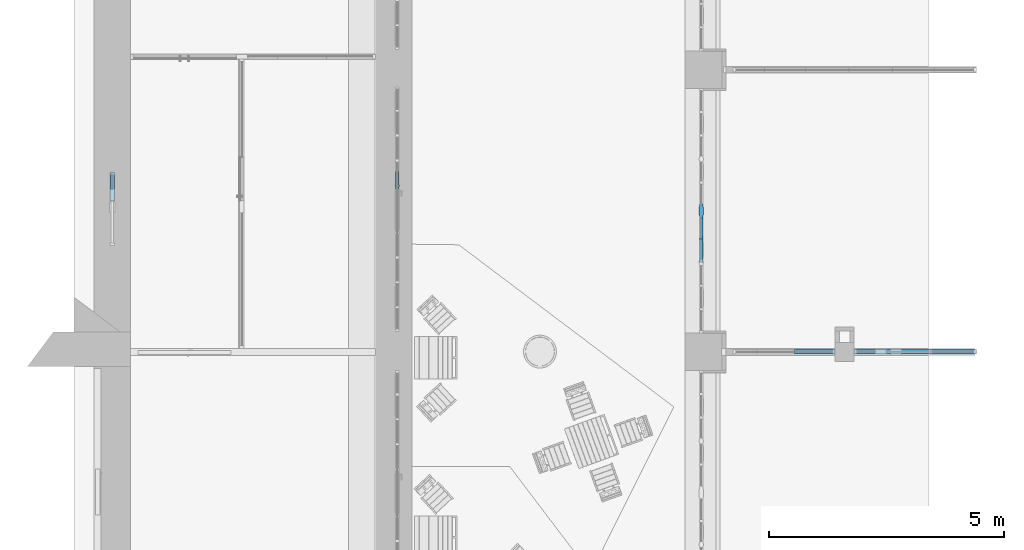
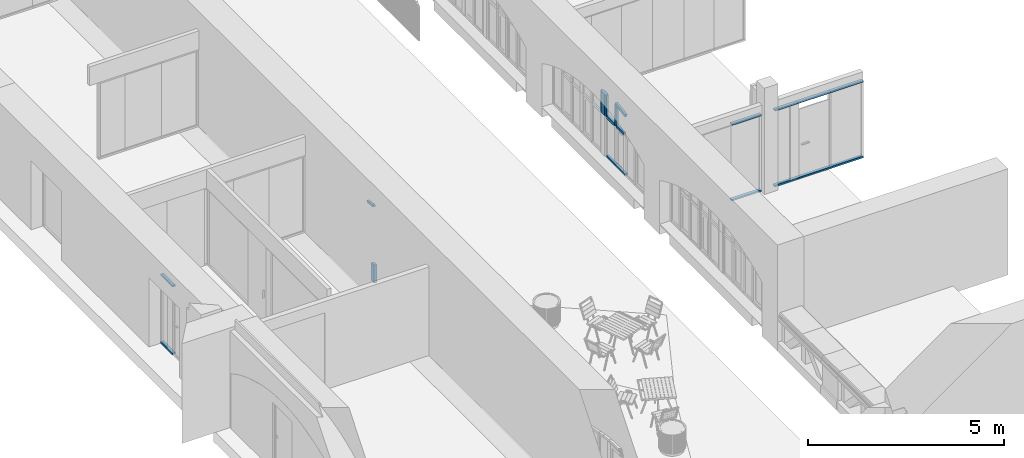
# One storey, part 25 of 88: 19 members, 5 elements without a shape of their own.
"""IFC2X3 building model written with IfcOpenShell, lengths in millimetres."""

from ifc_helpers import new_model, entity, si_unit, converted_unit, derived_unit, direction, frame, frame_2d, origin, place, context, subcontext, project, spatial, polyline, circle_curve, parameter, trimmed, segment, composite_curve, rectangle, outline, extrude, faceted_brep, source, transform, mapped, material, type_object, type_shapes, element, aggregate, save


model = new_model("IFC2X3")

# Units and contexts
model_context = context("Model", 3, precision=0.01, world=origin(), true_north=direction((6.123031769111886e-17, 1.0)))
body_context = subcontext(model_context, "Body", "Model", "MODEL_VIEW")
ifc_project = project(units=[si_unit("LENGTHUNIT", "METRE", prefix="MILLI"), si_unit("AREAUNIT", "SQUARE_METRE"), si_unit("VOLUMEUNIT", "CUBIC_METRE"), converted_unit("PLANEANGLEUNIT", "DEGREE", entity("IfcPlaneAngleMeasure", 0.017453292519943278), si_unit("PLANEANGLEUNIT", "RADIAN"), dimensions=[0, 0, 0, 0, 0, 0, 0]), si_unit("MASSUNIT", "GRAM", prefix="KILO"), derived_unit("MASSDENSITYUNIT", [(si_unit("MASSUNIT", "GRAM", prefix="KILO"), 1), (si_unit("LENGTHUNIT", "METRE"), -3)]), derived_unit("IONCONCENTRATIONUNIT", [(si_unit("MASSUNIT", "GRAM", prefix="KILO"), 1), (si_unit("LENGTHUNIT", "METRE"), -3)]), derived_unit("MOMENTOFINERTIAUNIT", [(si_unit("LENGTHUNIT", "METRE"), 4)]), si_unit("TIMEUNIT", "SECOND"), si_unit("FREQUENCYUNIT", "HERTZ"), si_unit("THERMODYNAMICTEMPERATUREUNIT", "DEGREE_CELSIUS"), derived_unit("THERMALTRANSMITTANCEUNIT", [(si_unit("MASSUNIT", "GRAM", prefix="KILO"), 1), (si_unit("THERMODYNAMICTEMPERATUREUNIT", "KELVIN"), -1), (si_unit("TIMEUNIT", "SECOND"), -3)]), derived_unit("THERMALCONDUCTANCEUNIT", [(si_unit("MASSUNIT", "GRAM", prefix="KILO"), 1), (si_unit("THERMODYNAMICTEMPERATUREUNIT", "KELVIN"), -1), (si_unit("TIMEUNIT", "SECOND"), -3), (si_unit("LENGTHUNIT", "METRE"), 1)]), derived_unit("VOLUMETRICFLOWRATEUNIT", [(si_unit("LENGTHUNIT", "METRE", prefix="DECI"), 3), (si_unit("TIMEUNIT", "SECOND"), -1)]), derived_unit("MASSFLOWRATEUNIT", [(si_unit("MASSUNIT", "GRAM", prefix="KILO"), 1), (si_unit("TIMEUNIT", "SECOND"), -1)]), derived_unit("ROTATIONALFREQUENCYUNIT", [(si_unit("TIMEUNIT", "SECOND"), -1)]), si_unit("ELECTRICCURRENTUNIT", "AMPERE"), si_unit("ELECTRICVOLTAGEUNIT", "VOLT"), si_unit("POWERUNIT", "WATT"), si_unit("FORCEUNIT", "NEWTON", prefix="KILO"), si_unit("ILLUMINANCEUNIT", "LUX"), si_unit("LUMINOUSFLUXUNIT", "LUMEN"), si_unit("LUMINOUSINTENSITYUNIT", "CANDELA"), si_unit("ENERGYUNIT", "JOULE"), derived_unit("USERDEFINED", [(si_unit("MASSUNIT", "GRAM", prefix="KILO"), -1), (si_unit("LENGTHUNIT", "METRE"), -2), (si_unit("TIMEUNIT", "SECOND"), 3), (si_unit("LUMINOUSFLUXUNIT", "LUMEN"), 1)]), derived_unit("USERDEFINED", [(si_unit("MASSUNIT", "GRAM", prefix="KILO"), 1), (si_unit("TIMEUNIT", "SECOND"), -3), (si_unit("LENGTHUNIT", "METRE"), 3), (si_unit("ELECTRICCURRENTUNIT", "AMPERE"), -2)]), derived_unit("SOUNDPOWERUNIT", [(si_unit("MASSUNIT", "GRAM", prefix="KILO"), 1), (si_unit("TIMEUNIT", "SECOND"), -3), (si_unit("LENGTHUNIT", "METRE"), 2)]), derived_unit("SOUNDPRESSUREUNIT", [(si_unit("MASSUNIT", "GRAM", prefix="KILO"), 1), (si_unit("LENGTHUNIT", "METRE"), -1), (si_unit("TIMEUNIT", "SECOND"), -2)]), derived_unit("LINEARVELOCITYUNIT", [(si_unit("LENGTHUNIT", "METRE"), 1), (si_unit("TIMEUNIT", "SECOND"), -1)]), si_unit("PRESSUREUNIT", "PASCAL"), derived_unit("USERDEFINED", [(si_unit("MASSUNIT", "GRAM", prefix="KILO"), 1), (si_unit("LENGTHUNIT", "METRE"), -2), (si_unit("TIMEUNIT", "SECOND"), -2)]), derived_unit("LINEARFORCEUNIT", [(si_unit("MASSUNIT", "GRAM", prefix="KILO"), 1), (si_unit("TIMEUNIT", "SECOND"), -2)]), derived_unit("PLANARFORCEUNIT", [(si_unit("MASSUNIT", "GRAM", prefix="KILO"), 1), (si_unit("LENGTHUNIT", "METRE"), -1), (si_unit("TIMEUNIT", "SECOND"), -2)]), derived_unit("SPECIFICHEATCAPACITYUNIT", [(si_unit("THERMODYNAMICTEMPERATUREUNIT", "KELVIN"), -1), (si_unit("LENGTHUNIT", "METRE"), 2), (si_unit("TIMEUNIT", "SECOND"), -2)]), derived_unit("HEATFLUXDENSITYUNIT", [(si_unit("MASSUNIT", "GRAM", prefix="KILO"), 1), (si_unit("TIMEUNIT", "SECOND"), -3)]), derived_unit("HEATINGVALUEUNIT", [(si_unit("LENGTHUNIT", "METRE"), 2), (si_unit("TIMEUNIT", "SECOND"), -2)]), derived_unit("VAPORPERMEABILITYUNIT", [(si_unit("LENGTHUNIT", "METRE"), -1), (si_unit("TIMEUNIT", "SECOND"), 1)]), derived_unit("DYNAMICVISCOSITYUNIT", [(si_unit("MASSUNIT", "GRAM", prefix="KILO"), 1), (si_unit("TIMEUNIT", "SECOND"), -1), (si_unit("LENGTHUNIT", "METRE"), -1)]), derived_unit("THERMALEXPANSIONCOEFFICIENTUNIT", [(si_unit("THERMODYNAMICTEMPERATUREUNIT", "KELVIN"), -1)]), derived_unit("MODULUSOFELASTICITYUNIT", [(si_unit("MASSUNIT", "GRAM", prefix="KILO"), 1), (si_unit("LENGTHUNIT", "METRE"), -1), (si_unit("TIMEUNIT", "SECOND"), -2)]), derived_unit("ISOTHERMALMOISTURECAPACITYUNIT", [(si_unit("MASSUNIT", "GRAM", prefix="KILO"), -1), (si_unit("LENGTHUNIT", "METRE"), 3)]), derived_unit("MOISTUREDIFFUSIVITYUNIT", [(si_unit("TIMEUNIT", "SECOND"), -1), (si_unit("LENGTHUNIT", "METRE"), 2)]), derived_unit("MASSPERLENGTHUNIT", [(si_unit("MASSUNIT", "GRAM", prefix="KILO"), 1), (si_unit("LENGTHUNIT", "METRE"), -1)]), derived_unit("THERMALRESISTANCEUNIT", [(si_unit("MASSUNIT", "GRAM", prefix="KILO"), -1), (si_unit("TIMEUNIT", "SECOND"), 3), (si_unit("THERMODYNAMICTEMPERATUREUNIT", "KELVIN"), 1)]), derived_unit("ACCELERATIONUNIT", [(si_unit("LENGTHUNIT", "METRE"), 1), (si_unit("TIMEUNIT", "SECOND"), -2)]), derived_unit("ANGULARVELOCITYUNIT", [(si_unit("TIMEUNIT", "SECOND"), -1), (si_unit("PLANEANGLEUNIT", "RADIAN"), 1)]), derived_unit("LINEARSTIFFNESSUNIT", [(si_unit("MASSUNIT", "GRAM", prefix="KILO"), 1), (si_unit("TIMEUNIT", "SECOND"), -2)]), derived_unit("WARPINGCONSTANTUNIT", [(si_unit("LENGTHUNIT", "METRE"), 6)]), derived_unit("LINEARMOMENTUNIT", [(si_unit("MASSUNIT", "GRAM", prefix="KILO"), 1), (si_unit("LENGTHUNIT", "METRE"), 1), (si_unit("TIMEUNIT", "SECOND"), -2)]), derived_unit("TORQUEUNIT", [(si_unit("MASSUNIT", "GRAM", prefix="KILO"), 1), (si_unit("LENGTHUNIT", "METRE"), 2), (si_unit("TIMEUNIT", "SECOND"), -2)])], contexts=[model_context])

# Site, building, storey
site_placement = place(None, origin())
site = spatial("IfcSite", under=ifc_project, at=site_placement, Name="Default", CompositionType="ELEMENT")
building_placement = place(site_placement, origin())
building = spatial("IfcBuilding", under=site, at=building_placement, Name="Eesti Rahvusraamatukogu hoone renoveerimise projekteerimistööd", CompositionType="ELEMENT")
storey_placement = place(building_placement, origin())
storey = spatial("IfcBuildingStorey", under=building, at=storey_placement, Name="1. korrus", CompositionType="ELEMENT", Elevation=0.0)

# Curtain wall, members
curtain_wall_type_1 = type_object("IfcCurtainWallType", Name="Curtain Wall:Ak-02", PredefinedType="NOTDEFINED")
curtain_wall_1_placement = place(storey_placement, origin())
curtain_wall_1 = element("IfcCurtainWall", 1, at=curtain_wall_1_placement, inside=storey, type_object=curtain_wall_type_1, Name="Curtain Wall:Ak-02", ObjectType="Curtain Wall:Ak-02")
ifc_material_1 = material(Name="LUMION_dark steel window frames")
member_type_1 = type_object("IfcMemberType", Name="Rectangular Mullion:NEW 80x70mm", PredefinedType="MULLION", material=ifc_material_1)
shared_shape_1 = source(origin(), body_context, "Body", "SweptSolid", [
    extrude(outline(composite_curve([segment(polyline([(-51.51245202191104, -250.9261639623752), (28.487547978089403, -250.92616396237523)]), True, "CONTINUOUS"), segment(trimmed(circle_curve(frame_2d((5469.203228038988, -250.9261639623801), x_axis=(-0.9957989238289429, 0.09156693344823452)), 5440.715680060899), [parameter(3.5622212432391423e-13)], [parameter(5.253758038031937)], True, "PARAMETER"), False, "CONTINUOUS"), segment(polyline([(51.34440897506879, 247.26348662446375), (-28.319504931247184, 254.5888413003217)]), True, "CONTINUOUS"), segment(trimmed(circle_curve(frame_2d((5469.203228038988, -250.9261639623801), x_axis=(-0.9957989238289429, 0.09156693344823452)), 5520.715680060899), [parameter(3.5622212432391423e-13)], [parameter(5.253758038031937)], True, "PARAMETER"), True, "CONTINUOUS")], self_intersect=False)), frame((-51.512452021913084, -35.0, -250.926163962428), z_axis=(0.0, 1.0, 0.0), x_axis=(-0.9957989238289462, 0.0, 0.09156693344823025)), (0.0, 0.0, 1.0), 70.00000000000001),
])
type_shapes(member_type_1, [shared_shape_1])
member_1_placement = place(curtain_wall_1_placement, frame((-36440.0, 14290.0, 3859.874732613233), z_axis=(0.0, -0.9799487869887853, -0.19924952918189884), x_axis=(0.0, -0.19924952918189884, 0.9799487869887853)))
member_1 = element("IfcMember", 2, at=member_1_placement, type_object=member_type_1, material=ifc_material_1, Name="Rectangular Mullion:NEW 80x70mm", ObjectType="Rectangular Mullion:NEW 80x70mm", context=body_context, shape_type="MappedRepresentation", body=[
    mapped(shared_shape_1, transform((0.0, 0.0, 0.0), scale=1.0)),
])
member_type_2 = type_object("IfcMemberType", Name="Rectangular Mullion:NEW 300x100mm", PredefinedType="MULLION", material=ifc_material_1)
shared_shape_2 = source(origin(), body_context, "Body", "Brep", [
    faceted_brep([(-85.0, -50.0, 0.0), (85.0, -50.0, 0.0), (85.0, -35.0, 0.0), (150.0, -35.0, 0.0), (150.0, 35.0, 0.0), (85.0, 35.0, 0.0), (85.0, 50.0, 0.0), (-85.0, 50.0, 0.0), (-85.0, 35.0, 0.0), (-150.0, 35.0, 0.0), (-150.0, -35.0, 0.0), (-85.0, -35.0, 0.0), (-85.0, 35.0, -669.9077630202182), (-117.50209737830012, 35.0, -669.3027955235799), (-150.0, 35.0, -668.5036429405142), (150.0, 35.0, -668.5036429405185), (117.50209737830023, 35.0, -669.3027955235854), (85.0, 35.0, -669.9077630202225), (-150.0, -35.0, -668.5036429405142), (-117.5020973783, -35.0, -669.3027955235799), (-85.0, -35.0, -669.9077630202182), (85.0, -35.0, -669.9077630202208), (117.50209737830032, -35.0, -669.3027955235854), (150.0, -35.0, -668.5036429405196), (-85.0, -50.0, -669.9077630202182), (-85.0, 50.0, -669.9077630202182), (-42.50064842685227, -50.0, -670.4057773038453), (0.0, -50.0, -670.5717786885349), (42.500648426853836, -50.0, -670.4057773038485), (85.0, -50.0, -669.9077630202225), (85.0, 50.0, -669.9077630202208), (42.500648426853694, 50.0, -670.4057773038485), (0.0, 50.0, -670.5717786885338), (-42.50064842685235, 50.0, -670.4057773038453)], [[[0, 1, 2, 3, 4, 5, 6, 7, 8, 9, 10, 11]], [[9, 8, 12, 13, 14]], [[5, 4, 15, 16, 17]], [[10, 9, 14, 18]], [[11, 10, 18, 19, 20]], [[3, 2, 21, 22, 23]], [[0, 11, 20, 24]], [[8, 7, 25, 12]], [[1, 0, 24, 26, 27, 28, 29]], [[2, 1, 29, 21]], [[6, 5, 17, 30]], [[4, 3, 23, 15]], [[7, 6, 30, 31, 32, 33, 25]], [[33, 32, 27, 26]], [[20, 12, 25, 33, 26, 24]], [[20, 19, 13, 12]], [[19, 18, 14, 13]], [[15, 23, 22, 16]], [[16, 22, 21, 17]], [[21, 29, 28, 31, 30, 17]], [[31, 28, 27, 32]]]),
])
type_shapes(member_type_2, [shared_shape_2])
member_2_placement = place(curtain_wall_1_placement, frame((-36440.0, 15390.0, 3220.0), z_axis=(0.0, 0.0, -1.0), x_axis=(0.0, -1.0, 0.0)))
member_2 = element("IfcMember", 3, at=member_2_placement, type_object=member_type_2, material=ifc_material_1, Name="Rectangular Mullion:NEW 300x100mm", ObjectType="Rectangular Mullion:NEW 300x100mm", context=body_context, shape_type="MappedRepresentation", body=[
    mapped(shared_shape_2, transform((0.0, 0.0, 0.0), scale=1.0)),
])
member_type_3 = type_object("IfcMemberType", Name="Rectangular Mullion:NEW 80x70mm", PredefinedType="MULLION", material=ifc_material_1)
shared_shape_3 = source(origin(), body_context, "Body", "SweptSolid", [
    extrude(outline(composite_curve([segment(polyline([(-382.56363634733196, -41.73890498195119), (250.23491165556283, -41.73890498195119)]), True, "CONTINUOUS"), segment(trimmed(circle_curve(frame_2d((-5152.707537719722, 598.2610950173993), x_axis=(0.9799487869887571, -0.19924952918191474)), 5440.715680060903), [parameter(4.737642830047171)], [parameter(5.253758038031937)], True, "PARAMETER"), True, "CONTINUOUS"), segment(trimmed(circle_curve(frame_2d((-5152.70753772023, 598.2610950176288), x_axis=(0.994076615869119, -0.10868156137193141)), 5440.715680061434), [parameter(0.0)], [parameter(0.33153708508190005)], True, "PARAMETER"), True, "CONTINUOUS"), segment(polyline([(259.11166761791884, 38.26109501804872), (-382.56363634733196, 38.26109501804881)]), True, "CONTINUOUS"), segment(polyline([(-382.56363634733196, 38.26109501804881), (-382.56363634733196, -41.73890498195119)]), True, "CONTINUOUS")], self_intersect=False)), frame((-1.7389049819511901, -35.0, -382.56363634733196), z_axis=(0.0, 1.0, 0.0), x_axis=(0.0, 0.0, -1.0)), (0.0, 0.0, 1.0), 70.00000000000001),
])
type_shapes(member_type_3, [shared_shape_3])
member_3_placement = place(curtain_wall_1_placement, frame((-36440.0, 14790.0, 3220.0), z_axis=(0.0, 0.0, -1.0), x_axis=(0.0, -1.0, 0.0)))
member_3 = element("IfcMember", 4, at=member_3_placement, type_object=member_type_3, material=ifc_material_1, Name="Rectangular Mullion:NEW 80x70mm", ObjectType="Rectangular Mullion:NEW 80x70mm", context=body_context, shape_type="MappedRepresentation", body=[
    mapped(shared_shape_3, transform((0.0, 0.0, 0.0), scale=1.0)),
])
member_type_4 = type_object("IfcMemberType", Name="Rectangular Mullion:NEW 80x70mm", PredefinedType="MULLION", material=ifc_material_1)
shared_shape_4 = source(origin(), body_context, "Body", "SweptSolid", [
    extrude(rectangle(XDim=80.0, YDim=70.0, at=frame_2d((0.0, -3.552713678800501e-15), x_axis=(1.0, 0.0))), frame((0.0, 0.0, -385.0), z_axis=(0.0, 0.0, 1.0), x_axis=(-1.0, 0.0, 0.0)), (0.0, 0.0, 1.0), 384.99999999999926),
])
type_shapes(member_type_4, [shared_shape_4])
member_4_placement = place(curtain_wall_1_placement, frame((-36440.0, 14365.0, 3220.0), z_axis=(0.0, -1.0, 0.0), x_axis=(0.0, 0.0, 1.0)))
member_4 = element("IfcMember", 5, at=member_4_placement, type_object=member_type_4, material=ifc_material_1, Name="Rectangular Mullion:NEW 80x70mm", ObjectType="Rectangular Mullion:NEW 80x70mm", context=body_context, shape_type="MappedRepresentation", body=[
    mapped(shared_shape_4, transform((0.0, 0.0, 0.0), scale=1.0)),
])
member_type_5 = type_object("IfcMemberType", Name="Rectangular Mullion:NEW 80x70mm", PredefinedType="MULLION", material=ifc_material_1)
shared_shape_5 = source(origin(), body_context, "Body", "SweptSolid", [
    extrude(rectangle(XDim=80.0, YDim=70.0, at=frame_2d((0.0, -3.552713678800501e-15), x_axis=(1.0, 0.0))), frame((0.0, 0.0, -410.0), z_axis=(0.0, 0.0, 1.0), x_axis=(-1.0, 0.0, 0.0)), (0.0, 0.0, 1.0), 409.9999999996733),
])
type_shapes(member_type_5, [shared_shape_5])
member_5_placement = place(curtain_wall_1_placement, frame((-36440.0, 14830.0, 3220.0), z_axis=(0.0, -1.0, 0.0), x_axis=(0.0, 0.0, 1.0)))
member_5 = element("IfcMember", 6, at=member_5_placement, type_object=member_type_5, material=ifc_material_1, Name="Rectangular Mullion:NEW 80x70mm", ObjectType="Rectangular Mullion:NEW 80x70mm", context=body_context, shape_type="MappedRepresentation", body=[
    mapped(shared_shape_5, transform((0.0, 0.0, 0.0), scale=1.0)),
])
member_type_6 = type_object("IfcMemberType", Name="Rectangular Mullion:NEW 60x70mm", PredefinedType="MULLION", material=ifc_material_1)
shared_shape_6 = source(origin(), body_context, "Body", "SweptSolid", [
    extrude(rectangle(XDim=60.0, YDim=70.0, at=frame_2d((0.0, 3.552713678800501e-15), x_axis=(1.0, 0.0))), frame((-30.0, 0.0, -500.0), z_axis=(0.0, 0.0, 1.0), x_axis=(-1.0, 0.0, 0.0)), (0.0, 0.0, 1.0), 499.999999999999),
])
type_shapes(member_type_6, [shared_shape_6])
member_6_placement = place(curtain_wall_1_placement, frame((-36440.0, 14790.0, 1970.0), z_axis=(0.0, 1.0, 0.0), x_axis=(0.0, 0.0, -1.0)))
member_6 = element("IfcMember", 7, at=member_6_placement, type_object=member_type_6, material=ifc_material_1, Name="Rectangular Mullion:NEW 60x70mm", ObjectType="Rectangular Mullion:NEW 60x70mm", context=body_context, shape_type="MappedRepresentation", body=[
    mapped(shared_shape_6, transform((0.0, 0.0, 0.0), scale=1.0)),
])
member_type_7 = type_object("IfcMemberType", Name="Rectangular Mullion:NEW 60x70mm", PredefinedType="MULLION", material=ifc_material_1)
shared_shape_7 = source(origin(), body_context, "Body", "SweptSolid", [
    extrude(rectangle(XDim=60.0, YDim=70.0, at=frame_2d((0.0, 3.552713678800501e-15), x_axis=(1.0, 0.0))), frame((-30.0, 0.0, -450.0), z_axis=(0.0, 0.0, 1.0), x_axis=(-1.0, 0.0, 0.0)), (0.0, 0.0, 1.0), 449.9999999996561),
])
type_shapes(member_type_7, [shared_shape_7])
member_7_placement = place(curtain_wall_1_placement, frame((-36440.0, 15240.0, 1970.0), z_axis=(0.0, 1.0, 0.0), x_axis=(0.0, 0.0, -1.0)))
member_7 = element("IfcMember", 8, at=member_7_placement, type_object=member_type_7, material=ifc_material_1, Name="Rectangular Mullion:NEW 60x70mm", ObjectType="Rectangular Mullion:NEW 60x70mm", context=body_context, shape_type="MappedRepresentation", body=[
    mapped(shared_shape_7, transform((0.0, 0.0, 0.0), scale=1.0)),
])
aggregate(curtain_wall_1, [member_1, member_2, member_3, member_4, member_5, member_6, member_7])

curtain_wall_type_2 = type_object("IfcCurtainWallType", Name="Curtain Wall:Ak-05", PredefinedType="NOTDEFINED")
curtain_wall_2_placement = place(storey_placement, origin())
curtain_wall_2 = element("IfcCurtainWall", 9, at=curtain_wall_2_placement, inside=storey, type_object=curtain_wall_type_2, Name="Curtain Wall:Ak-05", ObjectType="Curtain Wall:Ak-05")
member_type_8 = type_object("IfcMemberType", Name="Rectangular Mullion:NEW 60x70mm", PredefinedType="MULLION", material=ifc_material_1)
shared_shape_8 = source(origin(), body_context, "Body", "SweptSolid", [
    extrude(outline(composite_curve([segment(polyline([(-34.44225079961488, -156.14991642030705), (25.5577492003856, -156.14991642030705)]), True, "CONTINUOUS"), segment(trimmed(circle_curve(frame_2d((5488.8383159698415, -156.14991642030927), x_axis=(-0.9983826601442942, 0.05685124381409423)), 5463.280566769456), [parameter(3.5622212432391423e-13)], [parameter(3.2590935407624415)], True, "PARAMETER"), False, "CONTINUOUS"), segment(polyline([(34.393730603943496, 154.44437910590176), (-25.509229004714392, 157.8554537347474)]), True, "CONTINUOUS"), segment(trimmed(circle_curve(frame_2d((5488.8383159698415, -156.14991642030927), x_axis=(-0.9983826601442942, 0.05685124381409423)), 5523.280566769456), [parameter(3.5622212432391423e-13)], [parameter(3.2590935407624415)], True, "PARAMETER"), True, "CONTINUOUS")], self_intersect=False)), frame((-34.44225079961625, -35.0, -156.14991642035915), z_axis=(0.0, 1.0, 0.0), x_axis=(-0.9983826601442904, 0.0, 0.056851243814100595)), (0.0, 0.0, 1.0), 69.99999999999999),
])
type_shapes(member_type_8, [shared_shape_8])
member_8_placement = place(curtain_wall_2_placement, frame((-42905.0, 15925.0, 2327.321965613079), z_axis=(0.0, -0.9958941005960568, 0.09052591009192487), x_axis=(0.0, 0.09052591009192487, 0.9958941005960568)))
member_8 = element("IfcMember", 10, at=member_8_placement, type_object=member_type_8, material=ifc_material_1, Name="Rectangular Mullion:NEW 60x70mm", ObjectType="Rectangular Mullion:NEW 60x70mm", context=body_context, shape_type="MappedRepresentation", body=[
    mapped(shared_shape_8, transform((0.0, 0.0, 0.0), scale=1.0)),
])
member_type_9 = type_object("IfcMemberType", Name="Rectangular Mullion:NEW 150x90mm", PredefinedType="MULLION", material=ifc_material_1)
shared_shape_9 = source(origin(), body_context, "Body", "SweptSolid", [
    extrude(outline(polyline([(40.0, -20.0), (45.0, -20.0), (45.0, 20.0), (40.0, 20.0), (40.0, 75.0), (-40.0, 75.0), (-40.0, 20.0), (-45.0, 20.0), (-45.0, -20.0), (-40.0, -20.0), (-40.0, -75.0), (40.0, -75.0), (40.0, -20.0)])), frame((0.0, 0.0, -550.0), z_axis=(0.0, 0.0, 1.0), x_axis=(0.0, -1.0, 0.0)), (0.0, 0.0, 1.0), 550.0000000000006),
])
type_shapes(member_type_9, [shared_shape_9])
member_9_placement = place(curtain_wall_2_placement, frame((-42905.0, 15925.0, -50.0), z_axis=(0.0, 0.0, -1.0), x_axis=(0.0, -1.0, 0.0)))
member_9 = element("IfcMember", 11, at=member_9_placement, type_object=member_type_9, material=ifc_material_1, Name="Rectangular Mullion:NEW 150x90mm", ObjectType="Rectangular Mullion:NEW 150x90mm", context=body_context, shape_type="MappedRepresentation", body=[
    mapped(shared_shape_9, transform((0.0, 0.0, 0.0), scale=1.0)),
])
aggregate(curtain_wall_2, [member_8, member_9])

curtain_wall_type_3 = type_object("IfcCurtainWallType", Name="Curtain Wall:VLS Klaasvahesein profiilita 38db", PredefinedType="NOTDEFINED")
curtain_wall_3_placement = place(storey_placement, origin())
curtain_wall_3 = element("IfcCurtainWall", 12, at=curtain_wall_3_placement, inside=storey, type_object=curtain_wall_type_3, Name="Curtain Wall:VLS Klaasvahesein profiilita 38db", ObjectType="Curtain Wall:VLS Klaasvahesein profiilita 38db")
ifc_material_2 = material(Name="Aluminum")
member_type_10 = type_object("IfcMemberType", Name="Rectangular Mullion:50mm x 92mm", PredefinedType="MULLION", material=ifc_material_2)
shared_shape_10 = source(origin(), body_context, "Body", "SweptSolid", [
    extrude(rectangle(XDim=50.0, YDim=92.0, at=frame_2d((0.0, 3.552713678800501e-15), x_axis=(1.0, 0.0))), frame((-25.0, 0.0, -600.0), z_axis=(0.0, 0.0, 1.0), x_axis=(-1.0, 0.0, 0.0)), (0.0, 0.0, 1.0), 600.0000000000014),
])
type_shapes(member_type_10, [shared_shape_10])
member_10_placement = place(curtain_wall_3_placement, frame((-48970.0, 16205.0, 0.0), z_axis=(0.0, 1.0, 0.0), x_axis=(0.0, 0.0, -1.0)))
member_10 = element("IfcMember", 13, at=member_10_placement, type_object=member_type_10, material=ifc_material_2, Name="Rectangular Mullion:50mm x 92mm", ObjectType="Rectangular Mullion:50mm x 92mm", context=body_context, shape_type="MappedRepresentation", body=[
    mapped(shared_shape_10, transform((0.0, 0.0, 0.0), scale=1.0)),
])
member_type_11 = type_object("IfcMemberType", Name="Rectangular Mullion:50mm x 92mm", PredefinedType="MULLION", material=ifc_material_2)
shared_shape_11 = source(origin(), body_context, "Body", "SweptSolid", [
    extrude(rectangle(XDim=50.0, YDim=92.0, at=frame_2d((0.0, 3.552713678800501e-15), x_axis=(1.0, 0.0))), frame((-25.0, 0.0, -600.0), z_axis=(0.0, 0.0, 1.0), x_axis=(-1.0, 0.0, 0.0)), (0.0, 0.0, 1.0), 600.0000000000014),
])
type_shapes(member_type_11, [shared_shape_11])
member_11_placement = place(curtain_wall_3_placement, frame((-48970.0, 15605.0, 2150.0), z_axis=(0.0, -1.0, 0.0), x_axis=(0.0, 0.0, 1.0)))
member_11 = element("IfcMember", 14, at=member_11_placement, type_object=member_type_11, material=ifc_material_2, Name="Rectangular Mullion:50mm x 92mm", ObjectType="Rectangular Mullion:50mm x 92mm", context=body_context, shape_type="MappedRepresentation", body=[
    mapped(shared_shape_11, transform((0.0, 0.0, 0.0), scale=1.0)),
])
aggregate(curtain_wall_3, [member_10, member_11])

curtain_wall_4_placement = place(storey_placement, origin())
curtain_wall_4 = element("IfcCurtainWall", 15, at=curtain_wall_4_placement, inside=storey, type_object=curtain_wall_type_3, Name="Curtain Wall:VLS Klaasvahesein profiilita 38db", ObjectType="Curtain Wall:VLS Klaasvahesein profiilita 38db")
member_type_12 = type_object("IfcMemberType", Name="Rectangular Mullion:50mm x 92mm", PredefinedType="MULLION", material=ifc_material_2)
shared_shape_12 = source(origin(), body_context, "Body", "SweptSolid", [
    extrude(rectangle(XDim=50.0, YDim=92.0, at=frame_2d((0.0, 3.552713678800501e-15), x_axis=(1.0, 0.0))), frame((-25.0, 0.0, -865.5000000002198), z_axis=(0.0, 0.0, 1.0), x_axis=(-1.0, 0.0, 0.0)), (0.0, 0.0, 1.0), 865.5000000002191),
])
type_shapes(member_type_12, [shared_shape_12])
member_12_placement = place(curtain_wall_4_placement, frame((-33590.0, 12390.0, 1650.0), z_axis=(1.0, 0.0, 0.0), x_axis=(0.0, 0.0, -1.0)))
member_12 = element("IfcMember", 16, at=member_12_placement, type_object=member_type_12, material=ifc_material_2, Name="Rectangular Mullion:50mm x 92mm", ObjectType="Rectangular Mullion:50mm x 92mm", context=body_context, shape_type="MappedRepresentation", body=[
    mapped(shared_shape_12, transform((0.0, 0.0, 0.0), scale=1.0)),
])
member_type_13 = type_object("IfcMemberType", Name="Rectangular Mullion:50mm x 92mm", PredefinedType="MULLION", material=ifc_material_2)
shared_shape_13 = source(origin(), body_context, "Body", "SweptSolid", [
    extrude(rectangle(XDim=50.0, YDim=92.0, at=frame_2d((0.0, 3.552713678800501e-15), x_axis=(1.0, 0.0))), frame((-25.0, 0.0, -865.5000000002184), z_axis=(0.0, 0.0, 1.0), x_axis=(-1.0, 0.0, 0.0)), (0.0, 0.0, 1.0), 865.5000000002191),
])
type_shapes(member_type_13, [shared_shape_13])
member_13_placement = place(curtain_wall_4_placement, frame((-34455.49999999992, 12390.0, 4050.0), z_axis=(-1.0, 0.0, 0.0), x_axis=(0.0, 0.0, 1.0)))
member_13 = element("IfcMember", 17, at=member_13_placement, type_object=member_type_13, material=ifc_material_2, Name="Rectangular Mullion:50mm x 92mm", ObjectType="Rectangular Mullion:50mm x 92mm", context=body_context, shape_type="MappedRepresentation", body=[
    mapped(shared_shape_13, transform((0.0, 0.0, 0.0), scale=1.0)),
])
aggregate(curtain_wall_4, [member_12, member_13])

curtain_wall_5_placement = place(storey_placement, origin())
curtain_wall_5 = element("IfcCurtainWall", 18, at=curtain_wall_5_placement, inside=storey, type_object=curtain_wall_type_3, Name="Curtain Wall:VLS Klaasvahesein profiilita 38db", ObjectType="Curtain Wall:VLS Klaasvahesein profiilita 38db")
member_type_14 = type_object("IfcMemberType", Name="Rectangular Mullion:50mm x 92mm", PredefinedType="MULLION", material=ifc_material_2)
shared_shape_14 = source(origin(), body_context, "Body", "SweptSolid", [
    extrude(rectangle(XDim=50.0, YDim=92.0, at=frame_2d((0.0, 3.552713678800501e-15), x_axis=(1.0, 0.0))), frame((-25.0, 0.0, -975.0), z_axis=(0.0, 0.0, 1.0), x_axis=(-1.0, 0.0, 0.0)), (0.0, 0.0, 1.0), 974.9999999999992),
])
type_shapes(member_type_14, [shared_shape_14])
member_14_placement = place(curtain_wall_5_placement, frame((-30590.0, 12390.0, 4050.0), z_axis=(1.0, 0.0, 0.0), x_axis=(0.0, 0.0, 1.0)))
member_14 = element("IfcMember", 19, at=member_14_placement, type_object=member_type_14, material=ifc_material_2, Name="Rectangular Mullion:50mm x 92mm", ObjectType="Rectangular Mullion:50mm x 92mm", context=body_context, shape_type="MappedRepresentation", body=[
    mapped(shared_shape_14, transform((0.0, 0.0, 0.0), scale=1.0)),
])
member_type_15 = type_object("IfcMemberType", Name="Rectangular Mullion:50mm x 92mm", PredefinedType="MULLION", material=ifc_material_2)
shared_shape_15 = source(origin(), body_context, "Body", "SweptSolid", [
    extrude(rectangle(XDim=50.0, YDim=92.0, at=frame_2d((0.0, 3.552713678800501e-15), x_axis=(1.0, 0.0))), frame((-25.0, 0.0, -675.0), z_axis=(0.0, 0.0, 1.0), x_axis=(-1.0, 0.0, 0.0)), (0.0, 0.0, 1.0), 674.9999999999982),
])
type_shapes(member_type_15, [shared_shape_15])
member_15_placement = place(curtain_wall_5_placement, frame((-33190.0, 12390.0, 1650.0), z_axis=(-1.0, 0.0, 0.0), x_axis=(0.0, 0.0, -1.0)))
member_15 = element("IfcMember", 20, at=member_15_placement, type_object=member_type_15, material=ifc_material_2, Name="Rectangular Mullion:50mm x 92mm", ObjectType="Rectangular Mullion:50mm x 92mm", context=body_context, shape_type="MappedRepresentation", body=[
    mapped(shared_shape_15, transform((0.0, 0.0, 0.0), scale=1.0)),
])
member_type_16 = type_object("IfcMemberType", Name="Rectangular Mullion:50mm x 92mm", PredefinedType="MULLION", material=ifc_material_2)
shared_shape_16 = source(origin(), body_context, "Body", "SweptSolid", [
    extrude(rectangle(XDim=50.0, YDim=92.0, at=frame_2d((0.0, 3.552713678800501e-15), x_axis=(1.0, 0.0))), frame((-25.0, 0.0, -675.0), z_axis=(0.0, 0.0, 1.0), x_axis=(-1.0, 0.0, 0.0)), (0.0, 0.0, 1.0), 674.9999999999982),
])
type_shapes(member_type_16, [shared_shape_16])
member_16_placement = place(curtain_wall_5_placement, frame((-32515.0, 12390.0, 4050.0), z_axis=(1.0, 0.0, 0.0), x_axis=(0.0, 0.0, 1.0)))
member_16 = element("IfcMember", 21, at=member_16_placement, type_object=member_type_16, material=ifc_material_2, Name="Rectangular Mullion:50mm x 92mm", ObjectType="Rectangular Mullion:50mm x 92mm", context=body_context, shape_type="MappedRepresentation", body=[
    mapped(shared_shape_16, transform((0.0, 0.0, 0.0), scale=1.0)),
])
member_type_17 = type_object("IfcMemberType", Name="Rectangular Mullion:50mm x 92mm", PredefinedType="MULLION", material=ifc_material_2)
shared_shape_17 = source(origin(), body_context, "Body", "SweptSolid", [
    extrude(rectangle(XDim=50.0, YDim=92.0, at=frame_2d((0.0, 3.552713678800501e-15), x_axis=(1.0, 0.0))), frame((-25.0, 0.0, -950.0), z_axis=(0.0, 0.0, 1.0), x_axis=(-1.0, 0.0, 0.0)), (0.0, 0.0, 1.0), 950.0000000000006),
])
type_shapes(member_type_17, [shared_shape_17])
member_17_placement = place(curtain_wall_5_placement, frame((-32515.0, 12390.0, 1650.0), z_axis=(-1.0, 0.0, 0.0), x_axis=(0.0, 0.0, -1.0)))
member_17 = element("IfcMember", 22, at=member_17_placement, type_object=member_type_17, material=ifc_material_2, Name="Rectangular Mullion:50mm x 92mm", ObjectType="Rectangular Mullion:50mm x 92mm", context=body_context, shape_type="MappedRepresentation", body=[
    mapped(shared_shape_17, transform((0.0, 0.0, 0.0), scale=1.0)),
])
member_type_18 = type_object("IfcMemberType", Name="Rectangular Mullion:50mm x 92mm", PredefinedType="MULLION", material=ifc_material_2)
shared_shape_18 = source(origin(), body_context, "Body", "SweptSolid", [
    extrude(rectangle(XDim=50.0, YDim=92.0, at=frame_2d((0.0, 3.552713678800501e-15), x_axis=(1.0, 0.0))), frame((-25.0, 0.0, -950.0), z_axis=(0.0, 0.0, 1.0), x_axis=(-1.0, 0.0, 0.0)), (0.0, 0.0, 1.0), 950.0000000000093),
])
type_shapes(member_type_18, [shared_shape_18])
member_18_placement = place(curtain_wall_5_placement, frame((-31565.0, 12390.0, 4050.0), z_axis=(1.0, 0.0, 0.0), x_axis=(0.0, 0.0, 1.0)))
member_18 = element("IfcMember", 23, at=member_18_placement, type_object=member_type_18, material=ifc_material_2, Name="Rectangular Mullion:50mm x 92mm", ObjectType="Rectangular Mullion:50mm x 92mm", context=body_context, shape_type="MappedRepresentation", body=[
    mapped(shared_shape_18, transform((0.0, 0.0, 0.0), scale=1.0)),
])
member_type_19 = type_object("IfcMemberType", Name="Rectangular Mullion:50mm x 92mm", PredefinedType="MULLION", material=ifc_material_2)
shared_shape_19 = source(origin(), body_context, "Body", "SweptSolid", [
    extrude(rectangle(XDim=50.0, YDim=92.0, at=frame_2d((0.0, 3.552713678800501e-15), x_axis=(1.0, 0.0))), frame((-25.0, 0.0, -975.0), z_axis=(0.0, 0.0, 1.0), x_axis=(-1.0, 0.0, 0.0)), (0.0, 0.0, 1.0), 974.9999999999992),
])
type_shapes(member_type_19, [shared_shape_19])
member_19_placement = place(curtain_wall_5_placement, frame((-31565.0, 12390.0, 1650.0), z_axis=(-1.0, 0.0, 0.0), x_axis=(0.0, 0.0, -1.0)))
member_19 = element("IfcMember", 24, at=member_19_placement, type_object=member_type_19, material=ifc_material_2, Name="Rectangular Mullion:50mm x 92mm", ObjectType="Rectangular Mullion:50mm x 92mm", context=body_context, shape_type="MappedRepresentation", body=[
    mapped(shared_shape_19, transform((0.0, 0.0, 0.0), scale=1.0)),
])
aggregate(curtain_wall_5, [member_14, member_15, member_16, member_17, member_18, member_19])

save(model, "model.ifc")
